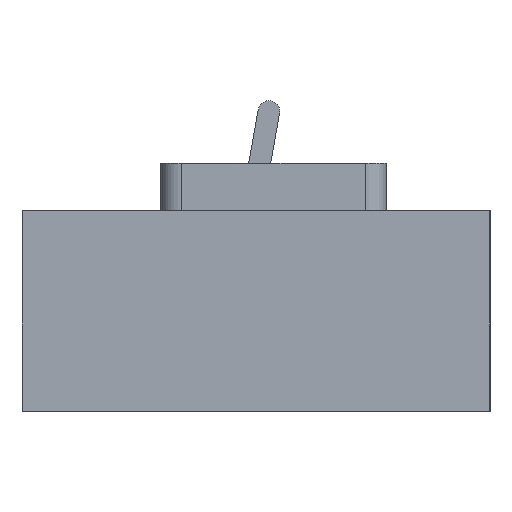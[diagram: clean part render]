
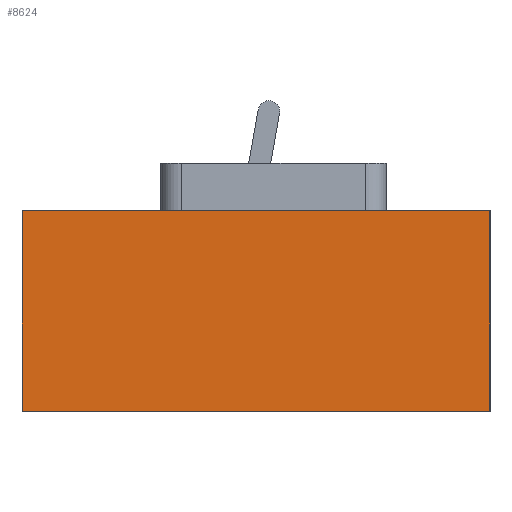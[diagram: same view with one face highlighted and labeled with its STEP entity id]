
A CAD part, left-side view. The second image highlights one B-rep face of the part: STEP entity #8624.
In plain terms, the highlighted planar face has unit normal (-1, 0, 0).
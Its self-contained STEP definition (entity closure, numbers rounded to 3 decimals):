
#327 = ORIENTED_EDGE ( 'NONE', *, *, #2894, .T. ) ;
#545 = DIRECTION ( 'NONE',  ( 0., -1., 0. ) ) ;
#577 = CARTESIAN_POINT ( 'NONE',  ( -112.5, 112., 96.05 ) ) ;
#679 = FACE_OUTER_BOUND ( 'NONE', #2631, .T. ) ;
#694 = LINE ( 'NONE', #2051, #1378 ) ;
#805 = VECTOR ( 'NONE', #545, 1000. ) ;
#1201 = VERTEX_POINT ( 'NONE', #4264 ) ;
#1269 = VECTOR ( 'NONE', #5685, 1000. ) ;
#1378 = VECTOR ( 'NONE', #4998, 1000. ) ;
#1812 = CARTESIAN_POINT ( 'NONE',  ( -112.5, -112., 0. ) ) ;
#2051 = CARTESIAN_POINT ( 'NONE',  ( -112.5, 112., 0. ) ) ;
#2179 = DIRECTION ( 'NONE',  ( 0., 1., 0. ) ) ;
#2489 = ORIENTED_EDGE ( 'NONE', *, *, #8280, .F. ) ;
#2631 = EDGE_LOOP ( 'NONE', ( #327, #2489, #4091, #5421 ) ) ;
#2635 = VERTEX_POINT ( 'NONE', #9620 ) ;
#2881 = PLANE ( 'NONE',  #6704 ) ;
#2894 = EDGE_CURVE ( 'NONE', #2635, #8434, #694, .T. ) ;
#3952 = CARTESIAN_POINT ( 'NONE',  ( -112.5, -112., 96.05 ) ) ;
#4091 = ORIENTED_EDGE ( 'NONE', *, *, #8544, .F. ) ;
#4264 = CARTESIAN_POINT ( 'NONE',  ( -112.5, 112., 96.05 ) ) ;
#4491 = EDGE_CURVE ( 'NONE', #1201, #2635, #4696, .T. ) ;
#4696 = LINE ( 'NONE', #7617, #5984 ) ;
#4998 = DIRECTION ( 'NONE',  ( 0., -1., 0. ) ) ;
#5421 = ORIENTED_EDGE ( 'NONE', *, *, #4491, .T. ) ;
#5581 = LINE ( 'NONE', #577, #805 ) ;
#5685 = DIRECTION ( 'NONE',  ( 0., 0., -1. ) ) ;
#5984 = VECTOR ( 'NONE', #8373, 1000. ) ;
#6375 = VERTEX_POINT ( 'NONE', #3952 ) ;
#6504 = CARTESIAN_POINT ( 'NONE',  ( -112.5, -112., 96.05 ) ) ;
#6704 = AXIS2_PLACEMENT_3D ( 'NONE', #8175, #6722, #2179 ) ;
#6722 = DIRECTION ( 'NONE',  ( 1., 0., 0. ) ) ;
#7617 = CARTESIAN_POINT ( 'NONE',  ( -112.5, 112., 96.05 ) ) ;
#8175 = CARTESIAN_POINT ( 'NONE',  ( -112.5, 112., 96.05 ) ) ;
#8280 = EDGE_CURVE ( 'NONE', #6375, #8434, #9428, .T. ) ;
#8373 = DIRECTION ( 'NONE',  ( 0., 0., -1. ) ) ;
#8434 = VERTEX_POINT ( 'NONE', #1812 ) ;
#8544 = EDGE_CURVE ( 'NONE', #1201, #6375, #5581, .T. ) ;
#8624 = ADVANCED_FACE ( 'NONE', ( #679 ), #2881, .F. ) ;
#9428 = LINE ( 'NONE', #6504, #1269 ) ;
#9620 = CARTESIAN_POINT ( 'NONE',  ( -112.5, 112., 0. ) ) ;
